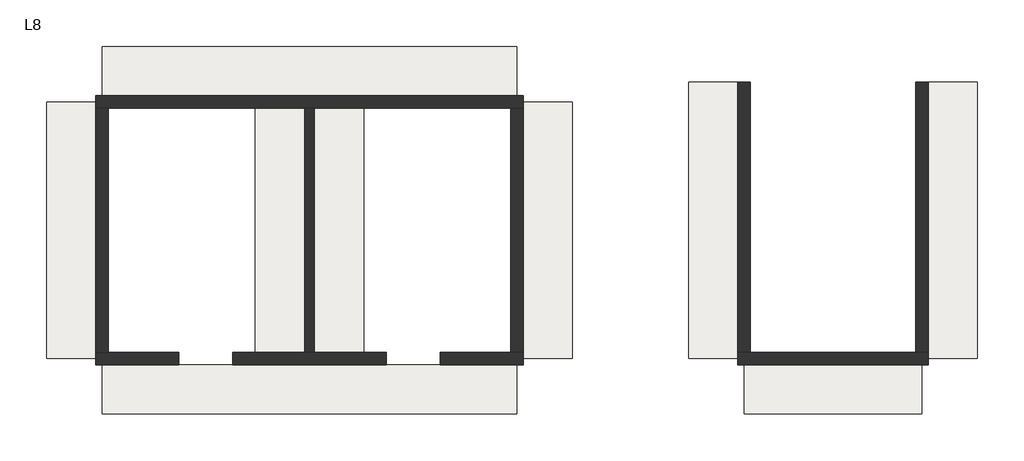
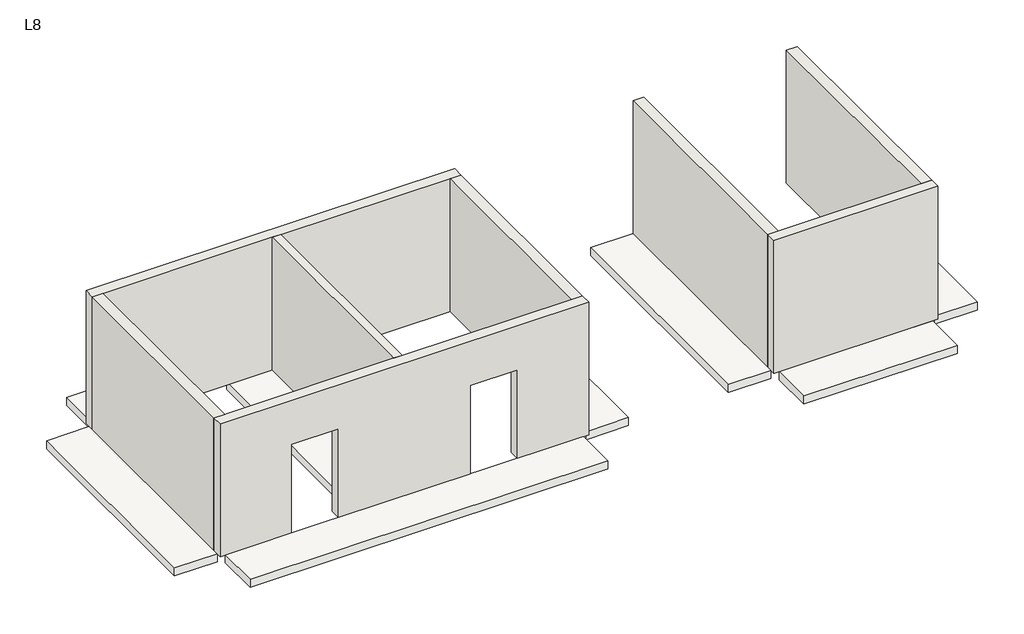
# One storey: 9 slabs, 8 walls.
"""IFC4 building model written with IfcOpenShell, lengths in millimetres."""

from ifc_helpers import new_model, si_unit, frame, origin, place, context, project, spatial, polyline, outline, extrude, faceted_brep, element, save

model = new_model("IFC4")

# Units and contexts
model_context = context("Model", 3, world=origin())
ifc_project = project(units=[si_unit("LENGTHUNIT", "METRE", prefix="MILLI")], contexts=[model_context])

# Site, building, storey
site = spatial("IfcSite", under=ifc_project)
building = spatial("IfcBuilding", under=site)
storey = spatial("IfcBuildingStorey", under=building, Name="L8", Elevation=24300.0)

# Slabs
placement = place(None, origin())
element("IfcSlab", 1, ObjectType="BS-Sàn 200", at=placement, inside=storey, context=model_context, shape_type="SweptSolid", body=[
    extrude(outline(polyline([(0.0, 6325.0), (8400.0, 6325.0), (8400.0, 5325.0), (0.0, 5325.0), (0.0, 6325.0)])), frame((0.0, 0.0, 24100.0), z_axis=(0.0, 0.0, 1.0), x_axis=(1.0, 0.0, 0.0)), (0.0, 0.0, 1.0), 200.0),
])
element("IfcSlab", 2, ObjectType="BS-Sàn 200", at=placement, inside=storey, context=model_context, shape_type="SweptSolid", body=[
    extrude(outline(polyline([(16725.0, 5600.0), (17725.0, 5600.0), (17725.0, 0.0), (16725.0, 0.0), (16725.0, 5600.0)])), frame((0.0, 0.0, 24100.0), z_axis=(0.0, 0.0, 1.0), x_axis=(1.0, 0.0, 0.0)), (0.0, 0.0, 1.0), 200.0),
])
element("IfcSlab", 3, ObjectType="BS-Sàn 200", at=placement, inside=storey, context=model_context, shape_type="SweptSolid", body=[
    extrude(outline(polyline([(11875.0, 5600.0), (12875.0, 5600.0), (12875.0, 0.0), (11875.0, 0.0), (11875.0, 5600.0)])), frame((0.0, 0.0, 24100.0), z_axis=(0.0, 0.0, 1.0), x_axis=(1.0, 0.0, 0.0)), (0.0, 0.0, 1.0), 200.0),
])
element("IfcSlab", 4, ObjectType="BS-Sàn 200", at=placement, inside=storey, context=model_context, shape_type="SweptSolid", body=[
    extrude(outline(polyline([(4300.0, 5200.0), (5300.0, 5200.0), (5300.0, 0.0), (4300.0, 0.0), (4300.0, 5200.0)])), frame((0.0, 0.0, 24100.0), z_axis=(0.0, 0.0, 1.0), x_axis=(1.0, 0.0, 0.0)), (0.0, 0.0, 1.0), 200.0),
])
element("IfcSlab", 5, ObjectType="BS-Sàn 200", at=placement, inside=storey, context=model_context, shape_type="SweptSolid", body=[
    extrude(outline(polyline([(3100.0, 5200.0), (4100.0, 5200.0), (4100.0, 0.0), (3100.0, 0.0), (3100.0, 5200.0)])), frame((0.0, 0.0, 24100.0), z_axis=(0.0, 0.0, 1.0), x_axis=(1.0, 0.0, 0.0)), (0.0, 0.0, 1.0), 200.0),
])
element("IfcSlab", 6, ObjectType="BS-Sàn 200", at=placement, inside=storey, context=model_context, shape_type="SweptSolid", body=[
    extrude(outline(polyline([(8525.0, 5200.0), (9525.0, 5200.0), (9525.0, 0.0), (8525.0, 0.0), (8525.0, 5200.0)])), frame((0.0, 0.0, 24100.0), z_axis=(0.0, 0.0, 1.0), x_axis=(1.0, 0.0, 0.0)), (0.0, 0.0, 1.0), 200.0),
])
element("IfcSlab", 7, ObjectType="BS-Sàn 200", at=placement, inside=storey, context=model_context, shape_type="SweptSolid", body=[
    extrude(outline(polyline([(-1125.0, 5200.0), (-125.0, 5200.0), (-125.0, 0.0), (-1125.0, 0.0), (-1125.0, 5200.0)])), frame((0.0, 0.0, 24100.0), z_axis=(0.0, 0.0, 1.0), x_axis=(1.0, 0.0, 0.0)), (0.0, 0.0, 1.0), 200.0),
])
element("IfcSlab", 8, ObjectType="BS-Sàn 200", at=placement, inside=storey, context=model_context, shape_type="SweptSolid", body=[
    extrude(outline(polyline([(13000.0, -125.0), (16600.0, -125.0), (16600.0, -1125.0), (13000.0, -1125.0), (13000.0, -125.0)])), frame((0.0, 0.0, 24100.0), z_axis=(0.0, 0.0, 1.0), x_axis=(1.0, 0.0, 0.0)), (0.0, 0.0, 1.0), 200.0),
])
element("IfcSlab", 9, ObjectType="BS-Sàn 200", at=placement, inside=storey, context=model_context, shape_type="SweptSolid", body=[
    extrude(outline(polyline([(0.0, -125.0), (8400.0, -125.0), (8400.0, -1125.0), (0.0, -1125.0), (0.0, -125.0)])), frame((0.0, 0.0, 24100.0), z_axis=(0.0, 0.0, 1.0), x_axis=(1.0, 0.0, 0.0)), (0.0, 0.0, 1.0), 200.0),
])

# Walls
element("IfcWall", 10, ObjectType="BS-Vách 250", at=placement, inside=storey, context=model_context, shape_type="Brep", body=[
    faceted_brep([(-125.0, 5075.0, 24300.0), (125.0, 5075.0, 24300.0), (4100.0, 5075.0, 24300.0), (4300.0, 5075.0, 24300.0), (8275.0, 5075.0, 24300.0), (8525.0, 5075.0, 24300.0), (8525.0, 5075.0, 27600.0), (8275.0, 5075.0, 27600.0), (4300.0, 5075.0, 27600.0), (4100.0, 5075.0, 27600.0), (125.0, 5075.0, 27600.0), (-125.0, 5075.0, 27600.0), (-125.0, 5325.0, 24300.0), (-125.0, 5325.0, 27600.0), (8525.0, 5325.0, 27600.0), (8525.0, 5325.0, 24300.0)], [[[0, 1, 2, 3, 4, 5, 6, 7, 8, 9, 10, 11]], [[12, 13, 14, 15]], [[5, 4, 3, 2, 1, 0, 12, 15]], [[11, 10, 9, 8, 7, 6, 14, 13]], [[6, 5, 15, 14]], [[0, 11, 13, 12]]]),
])
element("IfcWall", 11, ObjectType="BS-Vách 250", at=placement, inside=storey, context=model_context, shape_type="Brep", body=[
    faceted_brep([(8525.0, -125.0, 24300.0), (8525.0, -125.0, 27600.0), (-125.0, -125.0, 27600.0), (-125.0, -125.0, 24300.0), (1550.0, -125.0, 24300.0), (1550.0, -125.0, 26500.0), (2650.0, -125.0, 26500.0), (2650.0, -125.0, 24300.0), (5750.0, -125.0, 24300.0), (5750.0, -125.0, 26500.0), (6850.0, -125.0, 26500.0), (6850.0, -125.0, 24300.0), (8525.0, 125.0, 27600.0), (8525.0, 125.0, 24300.0), (8275.0, 125.0, 24300.0), (6850.0, 125.0, 24300.0), (6850.0, 125.0, 26500.0), (5750.0, 125.0, 26500.0), (5750.0, 125.0, 24300.0), (4300.0, 125.0, 24300.0), (4100.0, 125.0, 24300.0), (2650.0, 125.0, 24300.0), (2650.0, 125.0, 26500.0), (1550.0, 125.0, 26500.0), (1550.0, 125.0, 24300.0), (125.0, 125.0, 24300.0), (-125.0, 125.0, 24300.0), (-125.0, 125.0, 27600.0), (125.0, 125.0, 27600.0), (4100.0, 125.0, 27600.0), (4300.0, 125.0, 27600.0), (8275.0, 125.0, 27600.0)], [[[0, 1, 2, 3, 4, 5, 6, 7, 8, 9, 10, 11]], [[12, 13, 14, 15, 16, 17, 18, 19, 20, 21, 22, 23, 24, 25, 26, 27, 28, 29, 30, 31]], [[7, 21, 20, 19, 18, 8]], [[13, 0, 11, 15, 14]], [[3, 26, 25, 24, 4]], [[2, 1, 12, 31, 30, 29, 28, 27]], [[5, 23, 22, 6]], [[23, 5, 4, 24]], [[6, 22, 21, 7]], [[9, 17, 16, 10]], [[17, 9, 8, 18]], [[10, 16, 15, 11]], [[1, 0, 13, 12]], [[3, 2, 27, 26]]]),
])
element("IfcWall", 12, ObjectType="BS-Vách 250", at=placement, inside=storey, context=model_context, shape_type="SweptSolid", body=[
    extrude(outline(polyline([(125.0, 5075.0), (125.0, 125.0), (-125.0, 125.0), (-125.0, 5075.0), (125.0, 5075.0)])), frame((0.0, 0.0, 24300.0), z_axis=(0.0, 0.0, 1.0), x_axis=(1.0, 0.0, 0.0)), (0.0, 0.0, 1.0), 3300.0),
])
element("IfcWall", 13, ObjectType="BS-Vách 250", at=placement, inside=storey, context=model_context, shape_type="SweptSolid", body=[
    extrude(outline(polyline([(8525.0, 5075.0), (8525.0, 125.0), (8275.0, 125.0), (8275.0, 5075.0), (8525.0, 5075.0)])), frame((0.0, 0.0, 24300.0), z_axis=(0.0, 0.0, 1.0), x_axis=(1.0, 0.0, 0.0)), (0.0, 0.0, 1.0), 3300.0),
])
element("IfcWall", 14, ObjectType="BS-Vách 200", at=placement, inside=storey, context=model_context, shape_type="SweptSolid", body=[
    extrude(outline(polyline([(4300.0, 5075.0), (4300.0, 125.0), (4100.0, 125.0), (4100.0, 5075.0), (4300.0, 5075.0)])), frame((0.0, 0.0, 24300.0), z_axis=(0.0, 0.0, 1.0), x_axis=(1.0, 0.0, 0.0)), (0.0, 0.0, 1.0), 3300.0),
])
element("IfcWall", 15, ObjectType="BS-Vách 250", at=placement, inside=storey, context=model_context, shape_type="Brep", body=[
    faceted_brep([(12875.0, -125.0, 24300.0), (16725.0, -125.0, 24300.0), (16725.0, -125.0, 27600.0), (12875.0, -125.0, 27600.0), (12875.0, 125.0, 24300.0), (12875.0, 125.0, 27600.0), (13125.0, 125.0, 27600.0), (16475.0, 125.0, 27600.0), (16725.0, 125.0, 27600.0), (16725.0, 125.0, 24300.0), (16475.0, 125.0, 24300.0), (13125.0, 125.0, 24300.0)], [[[0, 1, 2, 3]], [[4, 5, 6, 7, 8, 9, 10, 11]], [[1, 0, 4, 11, 10, 9]], [[3, 2, 8, 7, 6, 5]], [[2, 1, 9, 8]], [[0, 3, 5, 4]]]),
])
element("IfcWall", 16, ObjectType="BS-Vách 250", at=placement, inside=storey, context=model_context, shape_type="SweptSolid", body=[
    extrude(outline(polyline([(13125.0, 5600.0), (13125.0, 125.0), (12875.0, 125.0), (12875.0, 5600.0), (13125.0, 5600.0)])), frame((0.0, 0.0, 24300.0), z_axis=(0.0, 0.0, 1.0), x_axis=(1.0, 0.0, 0.0)), (0.0, 0.0, 1.0), 3300.0),
])
element("IfcWall", 17, ObjectType="BS-Vách 250", at=placement, inside=storey, context=model_context, shape_type="SweptSolid", body=[
    extrude(outline(polyline([(16725.0, 5600.0), (16725.0, 125.0), (16475.0, 125.0), (16475.0, 5600.0), (16725.0, 5600.0)])), frame((0.0, 0.0, 24300.0), z_axis=(0.0, 0.0, 1.0), x_axis=(1.0, 0.0, 0.0)), (0.0, 0.0, 1.0), 3300.0),
])

save(model, "model.ifc")
